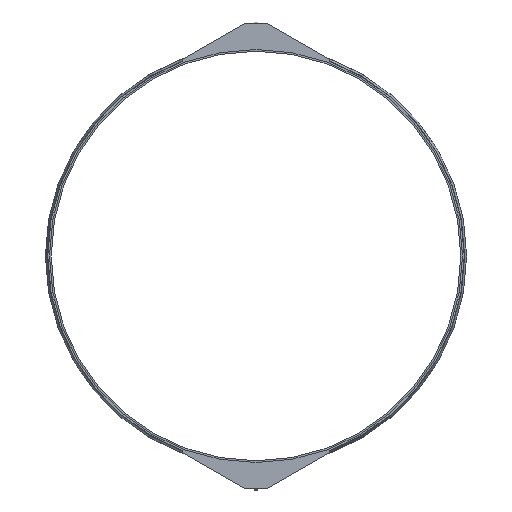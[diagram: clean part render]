
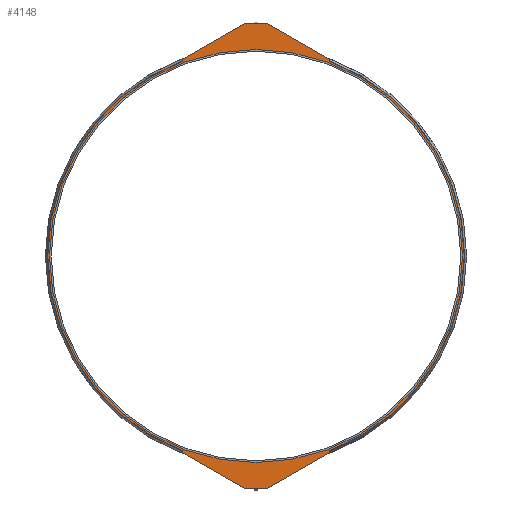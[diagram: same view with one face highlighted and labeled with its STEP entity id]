
A CAD part, left-side view. The second image highlights one B-rep face of the part: STEP entity #4148.
In plain terms, the highlighted planar face has unit normal (-1, 0, 0).
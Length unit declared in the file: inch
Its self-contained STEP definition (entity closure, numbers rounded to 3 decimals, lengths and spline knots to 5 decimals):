
#126=FACE_BOUND('',#718,.T.);
#268=PLANE('',#4523);
#479=FACE_OUTER_BOUND('',#717,.T.);
#717=EDGE_LOOP('',(#3664,#3665,#3666,#3667,#3668,#3669,#3670,#3671,#3672,
#3673,#3674,#3675,#3676,#3677,#3678,#3679,#3680,#3681,#3682,#3683));
#718=EDGE_LOOP('',(#3684,#3685));
#846=LINE('',#5992,#1235);
#849=LINE('',#6000,#1238);
#853=LINE('',#6009,#1242);
#856=LINE('',#6017,#1245);
#857=LINE('',#6020,#1246);
#1049=LINE('',#6769,#1438);
#1053=LINE('',#6778,#1442);
#1056=LINE('',#6786,#1445);
#1059=LINE('',#6793,#1448);
#1061=LINE('',#6797,#1450);
#1235=VECTOR('',#4846,0.3937);
#1238=VECTOR('',#4855,0.3937);
#1242=VECTOR('',#4865,0.3937);
#1245=VECTOR('',#4874,0.3937);
#1246=VECTOR('',#4877,0.3937);
#1438=VECTOR('',#5381,0.3937);
#1442=VECTOR('',#5391,0.3937);
#1445=VECTOR('',#5400,0.3937);
#1448=VECTOR('',#5409,0.3937);
#1450=VECTOR('',#5413,0.3937);
#1524=CIRCLE('',#4257,0.063);
#1525=CIRCLE('',#4260,0.125);
#1526=CIRCLE('',#4263,0.125);
#1527=CIRCLE('',#4266,0.063);
#1530=CIRCLE('',#4272,45.375);
#1583=CIRCLE('',#4423,0.063);
#1584=CIRCLE('',#4426,0.125);
#1585=CIRCLE('',#4429,0.125);
#1586=CIRCLE('',#4432,0.063);
#1596=CIRCLE('',#4463,45.375);
#1639=CIRCLE('',#4521,45.);
#1640=CIRCLE('',#4522,45.);
#1748=VERTEX_POINT('',#5984);
#1749=VERTEX_POINT('',#5986);
#1750=VERTEX_POINT('',#5990);
#1751=VERTEX_POINT('',#5994);
#1752=VERTEX_POINT('',#5998);
#1753=VERTEX_POINT('',#6003);
#1754=VERTEX_POINT('',#6007);
#1755=VERTEX_POINT('',#6011);
#1756=VERTEX_POINT('',#6015);
#1757=VERTEX_POINT('',#6019);
#1762=VERTEX_POINT('',#6031);
#1940=VERTEX_POINT('',#6762);
#1941=VERTEX_POINT('',#6764);
#1942=VERTEX_POINT('',#6768);
#1943=VERTEX_POINT('',#6772);
#1944=VERTEX_POINT('',#6777);
#1945=VERTEX_POINT('',#6781);
#1946=VERTEX_POINT('',#6785);
#1947=VERTEX_POINT('',#6789);
#1948=VERTEX_POINT('',#6795);
#2013=VERTEX_POINT('',#6993);
#2014=VERTEX_POINT('',#6995);
#2167=EDGE_CURVE('',#1748,#1749,#1524,.T.);
#2170=EDGE_CURVE('',#1750,#1748,#846,.T.);
#2172=EDGE_CURVE('',#1751,#1750,#1525,.T.);
#2174=EDGE_CURVE('',#1752,#1751,#849,.T.);
#2177=EDGE_CURVE('',#1753,#1752,#1526,.T.);
#2179=EDGE_CURVE('',#1754,#1753,#853,.T.);
#2181=EDGE_CURVE('',#1755,#1754,#1527,.T.);
#2183=EDGE_CURVE('',#1756,#1755,#856,.T.);
#2184=EDGE_CURVE('',#1749,#1757,#857,.T.);
#2191=EDGE_CURVE('',#1762,#1756,#1530,.T.);
#2454=EDGE_CURVE('',#1941,#1940,#1583,.T.);
#2456=EDGE_CURVE('',#1942,#1941,#1049,.T.);
#2458=EDGE_CURVE('',#1943,#1942,#1584,.T.);
#2461=EDGE_CURVE('',#1944,#1943,#1053,.T.);
#2463=EDGE_CURVE('',#1945,#1944,#1585,.T.);
#2465=EDGE_CURVE('',#1946,#1945,#1056,.T.);
#2467=EDGE_CURVE('',#1947,#1946,#1586,.T.);
#2469=EDGE_CURVE('',#1762,#1947,#1059,.T.);
#2471=EDGE_CURVE('',#1940,#1948,#1061,.T.);
#2520=EDGE_CURVE('',#1757,#1948,#1596,.T.);
#2570=EDGE_CURVE('',#2014,#2013,#1639,.T.);
#2571=EDGE_CURVE('',#2013,#2014,#1640,.T.);
#3664=ORIENTED_EDGE('',*,*,#2191,.F.);
#3665=ORIENTED_EDGE('',*,*,#2469,.T.);
#3666=ORIENTED_EDGE('',*,*,#2467,.T.);
#3667=ORIENTED_EDGE('',*,*,#2465,.T.);
#3668=ORIENTED_EDGE('',*,*,#2463,.T.);
#3669=ORIENTED_EDGE('',*,*,#2461,.T.);
#3670=ORIENTED_EDGE('',*,*,#2458,.T.);
#3671=ORIENTED_EDGE('',*,*,#2456,.T.);
#3672=ORIENTED_EDGE('',*,*,#2454,.T.);
#3673=ORIENTED_EDGE('',*,*,#2471,.T.);
#3674=ORIENTED_EDGE('',*,*,#2520,.F.);
#3675=ORIENTED_EDGE('',*,*,#2184,.F.);
#3676=ORIENTED_EDGE('',*,*,#2167,.F.);
#3677=ORIENTED_EDGE('',*,*,#2170,.F.);
#3678=ORIENTED_EDGE('',*,*,#2172,.F.);
#3679=ORIENTED_EDGE('',*,*,#2174,.F.);
#3680=ORIENTED_EDGE('',*,*,#2177,.F.);
#3681=ORIENTED_EDGE('',*,*,#2179,.F.);
#3682=ORIENTED_EDGE('',*,*,#2181,.F.);
#3683=ORIENTED_EDGE('',*,*,#2183,.F.);
#3684=ORIENTED_EDGE('',*,*,#2570,.T.);
#3685=ORIENTED_EDGE('',*,*,#2571,.T.);
#4148=ADVANCED_FACE('',(#479,#126),#268,.T.);
#4257=AXIS2_PLACEMENT_3D('',#5987,#4840,#4841);
#4260=AXIS2_PLACEMENT_3D('',#5996,#4850,#4851);
#4263=AXIS2_PLACEMENT_3D('',#6005,#4860,#4861);
#4266=AXIS2_PLACEMENT_3D('',#6013,#4869,#4870);
#4272=AXIS2_PLACEMENT_3D('',#6033,#4888,#4889);
#4423=AXIS2_PLACEMENT_3D('',#6765,#5376,#5377);
#4426=AXIS2_PLACEMENT_3D('',#6773,#5385,#5386);
#4429=AXIS2_PLACEMENT_3D('',#6782,#5395,#5396);
#4432=AXIS2_PLACEMENT_3D('',#6790,#5404,#5405);
#4463=AXIS2_PLACEMENT_3D('',#6894,#5509,#5510);
#4521=AXIS2_PLACEMENT_3D('',#6996,#5632,#5633);
#4522=AXIS2_PLACEMENT_3D('',#6997,#5634,#5635);
#4523=AXIS2_PLACEMENT_3D('',#6998,#5636,#5637);
#4840=DIRECTION('center_axis',(1.,0.,0.));
#4841=DIRECTION('ref_axis',(0.,-1.,0.));
#4846=DIRECTION('',(0.,0.866,0.499));
#4850=DIRECTION('center_axis',(1.,0.,0.));
#4851=DIRECTION('ref_axis',(0.,-0.499,0.866));
#4855=DIRECTION('',(0.,1.,0.));
#4860=DIRECTION('center_axis',(1.,0.,0.));
#4861=DIRECTION('ref_axis',(0.,0.,1.));
#4865=DIRECTION('',(0.,0.866,-0.499));
#4869=DIRECTION('center_axis',(1.,0.,0.));
#4870=DIRECTION('ref_axis',(0.,0.499,0.866));
#4874=DIRECTION('',(0.,0.,-1.));
#4877=DIRECTION('',(0.,0.,1.));
#4888=DIRECTION('center_axis',(1.,0.,0.));
#4889=DIRECTION('ref_axis',(0.,0.,-1.));
#5376=DIRECTION('center_axis',(-1.,0.,0.));
#5377=DIRECTION('ref_axis',(0.,-1.,0.));
#5381=DIRECTION('',(0.,0.866,-0.499));
#5385=DIRECTION('center_axis',(-1.,0.,0.));
#5386=DIRECTION('ref_axis',(0.,-0.499,-0.866));
#5391=DIRECTION('',(0.,1.,0.));
#5395=DIRECTION('center_axis',(-1.,0.,0.));
#5396=DIRECTION('ref_axis',(0.,0.,-1.));
#5400=DIRECTION('',(0.,0.866,0.499));
#5404=DIRECTION('center_axis',(-1.,0.,0.));
#5405=DIRECTION('ref_axis',(0.,0.499,-0.866));
#5409=DIRECTION('',(0.,0.,1.));
#5413=DIRECTION('',(0.,0.,-1.));
#5509=DIRECTION('center_axis',(1.,0.,0.));
#5510=DIRECTION('ref_axis',(0.,0.,-1.));
#5632=DIRECTION('center_axis',(1.,0.,0.));
#5633=DIRECTION('ref_axis',(0.,0.,-1.));
#5634=DIRECTION('center_axis',(1.,0.,0.));
#5635=DIRECTION('ref_axis',(0.,0.,-1.));
#5636=DIRECTION('center_axis',(-1.,0.,0.));
#5637=DIRECTION('ref_axis',(0.,0.,1.));
#5984=CARTESIAN_POINT('',(-6.25,15.96846,-42.85364));
#5986=CARTESIAN_POINT('',(-6.25,16.,-42.79906));
#5987=CARTESIAN_POINT('Origin',(-6.25,15.937,-42.79906));
#5990=CARTESIAN_POINT('',(-6.25,2.42898,-50.6583));
#5992=CARTESIAN_POINT('',(-6.25,2.42898,-50.6583));
#5994=CARTESIAN_POINT('',(-6.25,2.36655,-50.675));
#5996=CARTESIAN_POINT('Origin',(-6.25,2.36655,-50.55));
#5998=CARTESIAN_POINT('',(-6.25,-2.36655,-50.675));
#6000=CARTESIAN_POINT('',(-6.25,0.,-50.675));
#6003=CARTESIAN_POINT('',(-6.25,-2.42898,-50.6583));
#6005=CARTESIAN_POINT('Origin',(-6.25,-2.36655,-50.55));
#6007=CARTESIAN_POINT('',(-6.25,-15.96846,-42.85364));
#6009=CARTESIAN_POINT('',(-6.25,-15.96846,-42.85364));
#6011=CARTESIAN_POINT('',(-6.25,-16.,-42.79906));
#6013=CARTESIAN_POINT('Origin',(-6.25,-15.937,-42.79906));
#6015=CARTESIAN_POINT('',(-6.25,-16.,-42.46046));
#6017=CARTESIAN_POINT('',(-6.25,-16.,-42.46046));
#6019=CARTESIAN_POINT('',(-6.25,16.,-42.46046));
#6020=CARTESIAN_POINT('',(-6.25,16.,-42.79906));
#6031=CARTESIAN_POINT('',(-6.25,-16.,42.46046));
#6033=CARTESIAN_POINT('Origin',(-6.25,0.,0.));
#6762=CARTESIAN_POINT('',(-6.25,16.,42.79906));
#6764=CARTESIAN_POINT('',(-6.25,15.96846,42.85364));
#6765=CARTESIAN_POINT('Origin',(-6.25,15.937,42.79906));
#6768=CARTESIAN_POINT('',(-6.25,2.42898,50.6583));
#6769=CARTESIAN_POINT('',(-6.25,2.42898,50.6583));
#6772=CARTESIAN_POINT('',(-6.25,2.36655,50.675));
#6773=CARTESIAN_POINT('Origin',(-6.25,2.36655,50.55));
#6777=CARTESIAN_POINT('',(-6.25,-2.36655,50.675));
#6778=CARTESIAN_POINT('',(-6.25,0.,50.675));
#6781=CARTESIAN_POINT('',(-6.25,-2.42898,50.6583));
#6782=CARTESIAN_POINT('Origin',(-6.25,-2.36655,50.55));
#6785=CARTESIAN_POINT('',(-6.25,-15.96846,42.85364));
#6786=CARTESIAN_POINT('',(-6.25,-15.96846,42.85364));
#6789=CARTESIAN_POINT('',(-6.25,-16.,42.79906));
#6790=CARTESIAN_POINT('Origin',(-6.25,-15.937,42.79906));
#6793=CARTESIAN_POINT('',(-6.25,-16.,42.46046));
#6795=CARTESIAN_POINT('',(-6.25,16.,42.46046));
#6797=CARTESIAN_POINT('',(-6.25,16.,42.79906));
#6894=CARTESIAN_POINT('Origin',(-6.25,0.,0.));
#6993=CARTESIAN_POINT('',(-6.25,-45.,0.));
#6995=CARTESIAN_POINT('',(-6.25,45.,0.));
#6996=CARTESIAN_POINT('Origin',(-6.25,0.,0.));
#6997=CARTESIAN_POINT('Origin',(-6.25,0.,0.));
#6998=CARTESIAN_POINT('Origin',(-6.25,45.375,0.));
